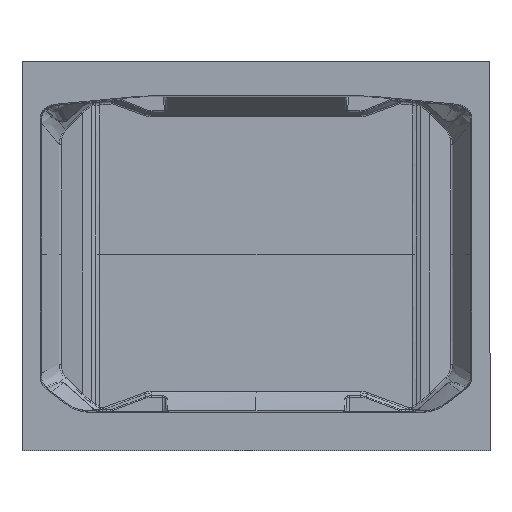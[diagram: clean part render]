
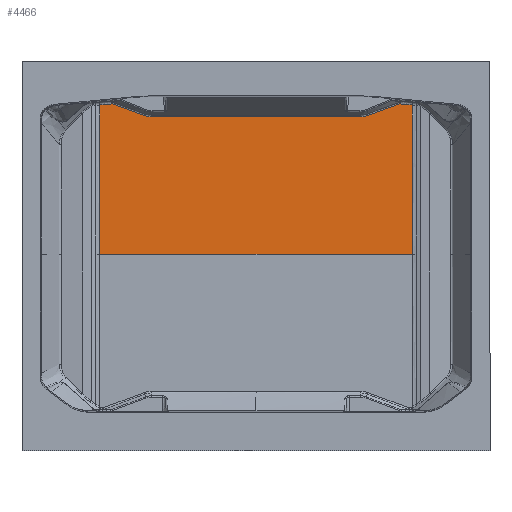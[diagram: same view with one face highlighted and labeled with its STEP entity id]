
A CAD part, front view. The second image highlights one B-rep face of the part: STEP entity #4466.
In plain terms, the highlighted planar face has unit normal (0, -1, 0).
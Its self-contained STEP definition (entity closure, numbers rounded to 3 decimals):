
#110 = VERTEX_POINT ( 'NONE', #658 ) ;
#162 = VECTOR ( 'NONE', #5978, 1000. ) ;
#423 = DIRECTION ( 'NONE',  ( 0., 1., 0. ) ) ;
#512 = CARTESIAN_POINT ( 'NONE',  ( -70.22, 40.151, 92.012 ) ) ;
#559 = CARTESIAN_POINT ( 'NONE',  ( 70.22, 40.151, 92.012 ) ) ;
#658 = CARTESIAN_POINT ( 'NONE',  ( -104.637, 40.151, 99.972 ) ) ;
#719 = CARTESIAN_POINT ( 'NONE',  ( 0., 40.151, 92.012 ) ) ;
#791 = ORIENTED_EDGE ( 'NONE', *, *, #6477, .T. ) ;
#852 = CARTESIAN_POINT ( 'NONE',  ( -99.059, 40.151, 100.508 ) ) ;
#1034 = VERTEX_POINT ( 'NONE', #12638 ) ;
#1094 = CARTESIAN_POINT ( 'NONE',  ( 74.941, 40.151, 92.861 ) ) ;
#1303 = ORIENTED_EDGE ( 'NONE', *, *, #15029, .F. ) ;
#1472 = EDGE_CURVE ( 'NONE', #6618, #1034, #5802, .T. ) ;
#1602 = DIRECTION ( 'NONE',  ( 0., 0., 1. ) ) ;
#2106 = VERTEX_POINT ( 'NONE', #9610 ) ;
#2301 = CARTESIAN_POINT ( 'NONE',  ( 73.424, 40.151, 92.295 ) ) ;
#2547 = CARTESIAN_POINT ( 'NONE',  ( 0., 40.151, 0. ) ) ;
#3429 = LINE ( 'NONE', #11392, #8351 ) ;
#3597 = LINE ( 'NONE', #852, #10597 ) ;
#3630 = DIRECTION ( 'NONE',  ( -0.995, 0., 0.096 ) ) ;
#4186 = CARTESIAN_POINT ( 'NONE',  ( -73.42, 40.151, 92.294 ) ) ;
#4466 = ADVANCED_FACE ( 'NONE', ( #8111 ), #13203, .F. ) ;
#4527 = LINE ( 'NONE', #15283, #162 ) ;
#4733 = CARTESIAN_POINT ( 'NONE',  ( 104.637, 40.151, 99.972 ) ) ;
#4853 = CARTESIAN_POINT ( 'NONE',  ( 104.637, 40.151, 0. ) ) ;
#5387 = VECTOR ( 'NONE', #13021, 1000. ) ;
#5445 = VERTEX_POINT ( 'NONE', #4853 ) ;
#5514 = CARTESIAN_POINT ( 'NONE',  ( -74.941, 40.151, 92.861 ) ) ;
#5683 = CARTESIAN_POINT ( 'NONE',  ( 74.941, 40.151, 92.861 ) ) ;
#5716 = CARTESIAN_POINT ( 'NONE',  ( -74.941, 40.151, 92.861 ) ) ;
#5802 = B_SPLINE_CURVE_WITH_KNOTS ( 'NONE', 3,
 ( #5716, #4186, #10619, #512 ),
 .UNSPECIFIED., .F., .F.,
 ( 4, 4 ),
 ( 0., 1. ),
 .UNSPECIFIED. ) ;
#5911 = VERTEX_POINT ( 'NONE', #4733 ) ;
#5961 = AXIS2_PLACEMENT_3D ( 'NONE', #12151, #423, #1602 ) ;
#5978 = DIRECTION ( 'NONE',  ( 0., 0., 1. ) ) ;
#6072 = ORIENTED_EDGE ( 'NONE', *, *, #13433, .T. ) ;
#6144 = DIRECTION ( 'NONE',  ( 0., 0., 1. ) ) ;
#6185 = B_SPLINE_CURVE_WITH_KNOTS ( 'NONE', 3,
 ( #12423, #2301, #7176, #13986 ),
 .UNSPECIFIED., .F., .F.,
 ( 4, 4 ),
 ( 0., 1. ),
 .UNSPECIFIED. ) ;
#6376 = ORIENTED_EDGE ( 'NONE', *, *, #13507, .T. ) ;
#6461 = EDGE_CURVE ( 'NONE', #16306, #1034, #15148, .T. ) ;
#6477 = EDGE_CURVE ( 'NONE', #5911, #2106, #12798, .T. ) ;
#6618 = VERTEX_POINT ( 'NONE', #9502 ) ;
#6725 = VERTEX_POINT ( 'NONE', #14283 ) ;
#6792 = CARTESIAN_POINT ( 'NONE',  ( -96.412, 40.151, 100.763 ) ) ;
#7176 = CARTESIAN_POINT ( 'NONE',  ( 71.85, 40.151, 92.012 ) ) ;
#7349 = DIRECTION ( 'NONE',  ( 0.995, 0., 0.096 ) ) ;
#7930 = CARTESIAN_POINT ( 'NONE',  ( 81.609, 40.151, 95.346 ) ) ;
#8111 = FACE_OUTER_BOUND ( 'NONE', #15298, .T. ) ;
#8351 = VECTOR ( 'NONE', #6144, 1000. ) ;
#8585 = CARTESIAN_POINT ( 'NONE',  ( 99.059, 40.151, 100.508 ) ) ;
#8657 = ORIENTED_EDGE ( 'NONE', *, *, #1472, .F. ) ;
#8908 = EDGE_CURVE ( 'NONE', #5445, #5911, #3429, .T. ) ;
#8913 = EDGE_CURVE ( 'NONE', #6725, #110, #4527, .T. ) ;
#9133 = CARTESIAN_POINT ( 'NONE',  ( 96.412, 40.151, 100.763 ) ) ;
#9402 = VERTEX_POINT ( 'NONE', #5683 ) ;
#9502 = CARTESIAN_POINT ( 'NONE',  ( -74.941, 40.151, 92.861 ) ) ;
#9530 = VECTOR ( 'NONE', #11423, 1000. ) ;
#9610 = CARTESIAN_POINT ( 'NONE',  ( 96.412, 40.151, 100.763 ) ) ;
#10188 = ORIENTED_EDGE ( 'NONE', *, *, #14951, .T. ) ;
#10597 = VECTOR ( 'NONE', #7349, 1000. ) ;
#10619 = CARTESIAN_POINT ( 'NONE',  ( -71.844, 40.151, 92.012 ) ) ;
#11392 = CARTESIAN_POINT ( 'NONE',  ( 104.637, 40.151, 0. ) ) ;
#11423 = DIRECTION ( 'NONE',  ( -1., 0., 0. ) ) ;
#12151 = CARTESIAN_POINT ( 'NONE',  ( 0., 40.151, 0. ) ) ;
#12184 = ORIENTED_EDGE ( 'NONE', *, *, #8908, .T. ) ;
#12423 = CARTESIAN_POINT ( 'NONE',  ( 74.941, 40.151, 92.861 ) ) ;
#12483 = ORIENTED_EDGE ( 'NONE', *, *, #6461, .T. ) ;
#12638 = CARTESIAN_POINT ( 'NONE',  ( -70.22, 40.151, 92.012 ) ) ;
#12798 = LINE ( 'NONE', #8585, #13107 ) ;
#12852 = CARTESIAN_POINT ( 'NONE',  ( 88.766, 40.151, 97.98 ) ) ;
#13021 = DIRECTION ( 'NONE',  ( 1., 0., 0. ) ) ;
#13107 = VECTOR ( 'NONE', #3630, 1000. ) ;
#13203 = PLANE ( 'NONE',  #5961 ) ;
#13391 = EDGE_CURVE ( 'NONE', #110, #14764, #3597, .T. ) ;
#13433 = EDGE_CURVE ( 'NONE', #2106, #9402, #16721, .T. ) ;
#13507 = EDGE_CURVE ( 'NONE', #6725, #5445, #14490, .T. ) ;
#13986 = CARTESIAN_POINT ( 'NONE',  ( 70.22, 40.151, 92.012 ) ) ;
#14283 = CARTESIAN_POINT ( 'NONE',  ( -104.637, 40.151, 0. ) ) ;
#14347 = CARTESIAN_POINT ( 'NONE',  ( -96.412, 40.151, 100.763 ) ) ;
#14490 = LINE ( 'NONE', #2547, #5387 ) ;
#14558 = CARTESIAN_POINT ( 'NONE',  ( -89.245, 40.151, 98.155 ) ) ;
#14608 = B_SPLINE_CURVE_WITH_KNOTS ( 'NONE', 3,
 ( #6792, #14558, #16827, #5514 ),
 .UNSPECIFIED., .F., .F.,
 ( 4, 4 ),
 ( 0., 1. ),
 .UNSPECIFIED. ) ;
#14764 = VERTEX_POINT ( 'NONE', #14347 ) ;
#14951 = EDGE_CURVE ( 'NONE', #9402, #16306, #6185, .T. ) ;
#15029 = EDGE_CURVE ( 'NONE', #14764, #6618, #14608, .T. ) ;
#15148 = LINE ( 'NONE', #719, #9530 ) ;
#15283 = CARTESIAN_POINT ( 'NONE',  ( -104.637, 40.151, 0. ) ) ;
#15298 = EDGE_LOOP ( 'NONE', ( #791, #6072, #10188, #12483, #8657, #1303, #15674, #16945, #6376, #12184 ) ) ;
#15674 = ORIENTED_EDGE ( 'NONE', *, *, #13391, .F. ) ;
#16306 = VERTEX_POINT ( 'NONE', #559 ) ;
#16721 = B_SPLINE_CURVE_WITH_KNOTS ( 'NONE', 3,
 ( #9133, #12852, #7930, #1094 ),
 .UNSPECIFIED., .F., .F.,
 ( 4, 4 ),
 ( 0., 1. ),
 .UNSPECIFIED. ) ;
#16827 = CARTESIAN_POINT ( 'NONE',  ( -82.087, 40.151, 95.525 ) ) ;
#16945 = ORIENTED_EDGE ( 'NONE', *, *, #8913, .F. ) ;
